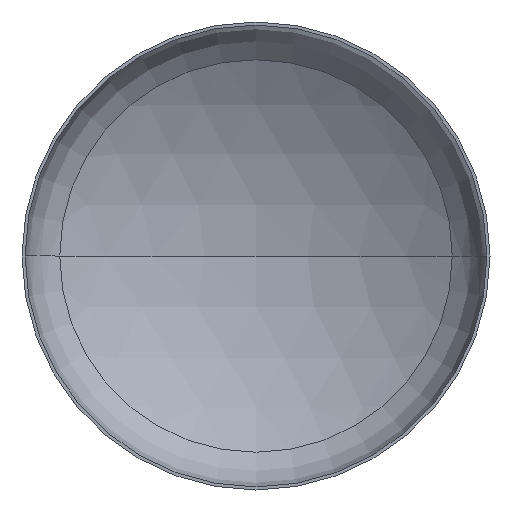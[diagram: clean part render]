
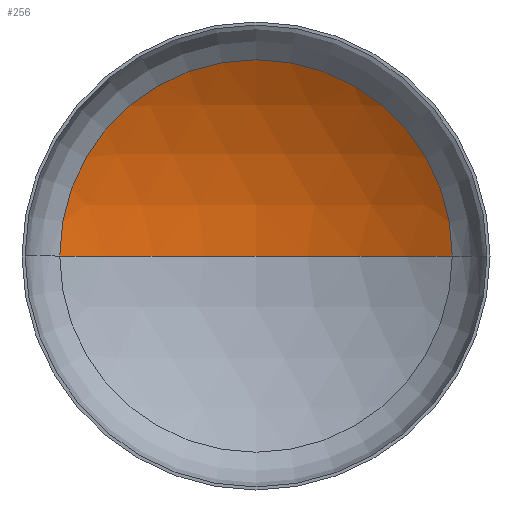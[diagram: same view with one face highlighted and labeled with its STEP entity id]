
A CAD part, front view. The second image highlights one B-rep face of the part: STEP entity #256.
In plain terms, the highlighted spherical face has radius 720 mm.
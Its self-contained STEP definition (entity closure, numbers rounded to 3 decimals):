
#5 = ORIENTED_EDGE ( 'NONE', *, *, #76, .F. ) ;
#12 = AXIS2_PLACEMENT_3D ( 'NONE', #148, #155, #382 ) ;
#36 = CARTESIAN_POINT ( 'NONE',  ( 377.379, 139.229, 0. ) ) ;
#41 = AXIS2_PLACEMENT_3D ( 'NONE', #286, #216, #215 ) ;
#42 = AXIS2_PLACEMENT_3D ( 'NONE', #167, #184, #189 ) ;
#44 = AXIS2_PLACEMENT_3D ( 'NONE', #305, #302, #283 ) ;
#63 = EDGE_LOOP ( 'NONE', ( #5, #145, #278 ) ) ;
#67 = VERTEX_POINT ( 'NONE', #281 ) ;
#74 = EDGE_CURVE ( 'NONE', #111, #177, #199, .T. ) ;
#75 = EDGE_CURVE ( 'NONE', #67, #111, #79, .T. ) ;
#76 = EDGE_CURVE ( 'NONE', #67, #177, #311, .T. ) ;
#79 = CIRCLE ( 'NONE', #42, 720. ) ;
#111 = VERTEX_POINT ( 'NONE', #36 ) ;
#145 = ORIENTED_EDGE ( 'NONE', *, *, #75, .T. ) ;
#148 = CARTESIAN_POINT ( 'NONE',  ( 0., -473.947, 0. ) ) ;
#155 = DIRECTION ( 'NONE',  ( 0., 0., -1. ) ) ;
#167 = CARTESIAN_POINT ( 'NONE',  ( 0., -473.947, 0. ) ) ;
#177 = VERTEX_POINT ( 'NONE', #244 ) ;
#184 = DIRECTION ( 'NONE',  ( 0., 0., -1. ) ) ;
#189 = DIRECTION ( 'NONE',  ( -1., 0., 0. ) ) ;
#199 = CIRCLE ( 'NONE', #44, 377.379 ) ;
#215 = DIRECTION ( 'NONE',  ( 1., 0., 0. ) ) ;
#216 = DIRECTION ( 'NONE',  ( 0., 0., 1. ) ) ;
#244 = CARTESIAN_POINT ( 'NONE',  ( -377.379, 139.229, 0. ) ) ;
#256 = ADVANCED_FACE ( 'NONE', ( #349 ), #290, .F. ) ;
#278 = ORIENTED_EDGE ( 'NONE', *, *, #74, .T. ) ;
#281 = CARTESIAN_POINT ( 'NONE',  ( 0., 246.053, 0. ) ) ;
#283 = DIRECTION ( 'NONE',  ( 1., 0., 0. ) ) ;
#286 = CARTESIAN_POINT ( 'NONE',  ( 0., -473.947, 0. ) ) ;
#290 = SPHERICAL_SURFACE ( 'NONE', #12, 720. ) ;
#302 = DIRECTION ( 'NONE',  ( 0., -1., 0. ) ) ;
#305 = CARTESIAN_POINT ( 'NONE',  ( 0., 139.229, 0. ) ) ;
#311 = CIRCLE ( 'NONE', #41, 720. ) ;
#349 = FACE_OUTER_BOUND ( 'NONE', #63, .T. ) ;
#382 = DIRECTION ( 'NONE',  ( -1., 0., 0. ) ) ;
